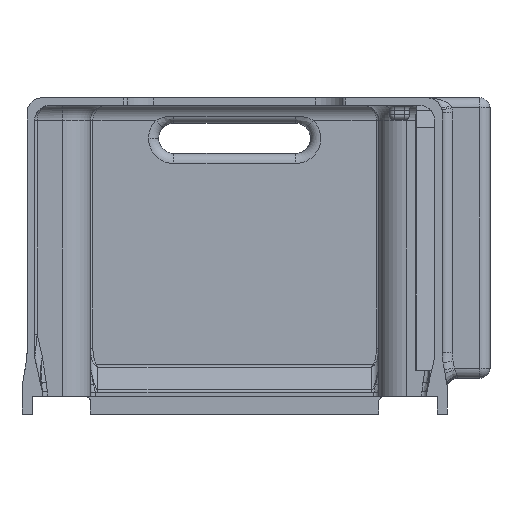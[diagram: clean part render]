
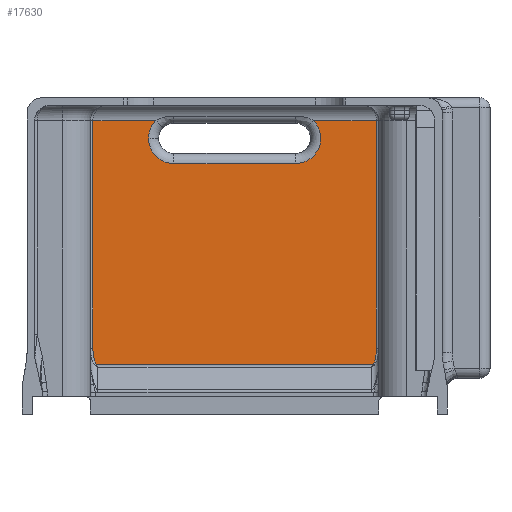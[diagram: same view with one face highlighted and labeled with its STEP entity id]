
A CAD part, front view. The second image highlights one B-rep face of the part: STEP entity #17630.
In plain terms, the highlighted planar face has unit normal (0, -1, 0).
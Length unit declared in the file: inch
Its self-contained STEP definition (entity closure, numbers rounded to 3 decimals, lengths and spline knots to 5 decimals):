
#61 =( BOUNDED_CURVE ( )  B_SPLINE_CURVE ( 3, ( #29071, #12985, #10169, #26568 ),
 .UNSPECIFIED., .F., .T. ) 
 B_SPLINE_CURVE_WITH_KNOTS ( ( 4, 4 ),
 ( 3.43286, 4.71239 ),
 .UNSPECIFIED. ) 
 CURVE ( )  GEOMETRIC_REPRESENTATION_ITEM ( )  RATIONAL_B_SPLINE_CURVE ( ( 1., 0.868, 0.868, 1. ) ) 
 REPRESENTATION_ITEM ( '' )  );
#101 =( BOUNDED_CURVE ( )  B_SPLINE_CURVE ( 3, ( #24010, #188, #26830, #15931 ),
 .UNSPECIFIED., .F., .F. ) 
 B_SPLINE_CURVE_WITH_KNOTS ( ( 4, 4 ),
 ( 1.5708, 2.85033 ),
 .UNSPECIFIED. ) 
 CURVE ( )  GEOMETRIC_REPRESENTATION_ITEM ( )  RATIONAL_B_SPLINE_CURVE ( ( 1., 0.868, 0.868, 1. ) ) 
 REPRESENTATION_ITEM ( '' )  );
#188 = CARTESIAN_POINT ( 'NONE',  ( -1.75, 0.25, 0.49767 ) ) ;
#474 = LINE ( 'NONE', #28310, #13070 ) ;
#726 = EDGE_CURVE ( 'NONE', #4277, #27708, #5654, .T. ) ;
#1096 = FACE_OUTER_BOUND ( 'NONE', #8013, .T. ) ;
#1273 = LINE ( 'NONE', #29840, #17231 ) ;
#1377 = CARTESIAN_POINT ( 'NONE',  ( -1.75, 0.25, 3.40625 ) ) ;
#1528 = EDGE_CURVE ( 'NONE', #9599, #30449, #33791, .T. ) ;
#1754 = VECTOR ( 'NONE', #4916, 39.37008 ) ;
#1920 = DIRECTION ( 'NONE',  ( -1., 0., 0. ) ) ;
#3341 = LINE ( 'NONE', #1377, #17610 ) ;
#3929 = VECTOR ( 'NONE', #20928, 39.37008 ) ;
#4277 = VERTEX_POINT ( 'NONE', #9447 ) ;
#4339 = LINE ( 'NONE', #13065, #3929 ) ;
#4916 = DIRECTION ( 'NONE',  ( 0., 0., -1. ) ) ;
#5055 = AXIS2_PLACEMENT_3D ( 'NONE', #27502, #32809, #17069 ) ;
#5654 = LINE ( 'NONE', #24677, #25342 ) ;
#7402 = ORIENTED_EDGE ( 'NONE', *, *, #14645, .T. ) ;
#7485 = ORIENTED_EDGE ( 'NONE', *, *, #12062, .T. ) ;
#7630 = VERTEX_POINT ( 'NONE', #33792 ) ;
#7863 = ORIENTED_EDGE ( 'NONE', *, *, #1528, .T. ) ;
#8013 = EDGE_LOOP ( 'NONE', ( #7485, #23457, #7863, #7402, #10085, #22636, #31193, #10871, #9438, #20900, #15437 ) ) ;
#8089 = CARTESIAN_POINT ( 'NONE',  ( -1.0625, 0.25, 3.1875 ) ) ;
#8514 = AXIS2_PLACEMENT_3D ( 'NONE', #25362, #9428, #30805 ) ;
#8780 = EDGE_CURVE ( 'NONE', #25888, #9599, #24465, .T. ) ;
#8828 = EDGE_CURVE ( 'NONE', #27708, #19502, #61, .T. ) ;
#9428 = DIRECTION ( 'NONE',  ( 0., 1., 0. ) ) ;
#9438 = ORIENTED_EDGE ( 'NONE', *, *, #14948, .F. ) ;
#9447 = CARTESIAN_POINT ( 'NONE',  ( -1.70545, 0.25, 0.38897 ) ) ;
#9505 = EDGE_CURVE ( 'NONE', #31422, #33009, #27787, .T. ) ;
#9599 = VERTEX_POINT ( 'NONE', #8089 ) ;
#10085 = ORIENTED_EDGE ( 'NONE', *, *, #9505, .T. ) ;
#10152 = CARTESIAN_POINT ( 'NONE',  ( -0.75, 0.25, 3.1875 ) ) ;
#10169 = CARTESIAN_POINT ( 'NONE',  ( 1.75, 0.25, 0.49767 ) ) ;
#10871 = ORIENTED_EDGE ( 'NONE', *, *, #8828, .T. ) ;
#11945 = CARTESIAN_POINT ( 'NONE',  ( -0.75, 0.25, 2.875 ) ) ;
#12062 = EDGE_CURVE ( 'NONE', #7630, #25888, #4339, .T. ) ;
#12985 = CARTESIAN_POINT ( 'NONE',  ( 1.73289, 0.25, 0.41762 ) ) ;
#13065 = CARTESIAN_POINT ( 'NONE',  ( 1.75, 0.25, 2.875 ) ) ;
#13070 = VECTOR ( 'NONE', #25589, 39.37008 ) ;
#13133 = CARTESIAN_POINT ( 'NONE',  ( -1.75, 0.25, 13.00886 ) ) ;
#13972 = AXIS2_PLACEMENT_3D ( 'NONE', #10152, #34342, #1920 ) ;
#14095 = CARTESIAN_POINT ( 'NONE',  ( 1.75, 0.25, 3.40625 ) ) ;
#14645 = EDGE_CURVE ( 'NONE', #30449, #31422, #474, .T. ) ;
#14792 = CARTESIAN_POINT ( 'NONE',  ( 1.70545, 0.25, 0.38897 ) ) ;
#14798 = CARTESIAN_POINT ( 'NONE',  ( 0.97317, 0.25, 3.40625 ) ) ;
#14909 = CARTESIAN_POINT ( 'NONE',  ( -1.75, 0.25, 0.59744 ) ) ;
#14948 = EDGE_CURVE ( 'NONE', #24301, #19502, #1273, .T. ) ;
#15437 = ORIENTED_EDGE ( 'NONE', *, *, #27082, .T. ) ;
#15931 = CARTESIAN_POINT ( 'NONE',  ( -1.70545, 0.25, 0.38897 ) ) ;
#16922 = CARTESIAN_POINT ( 'NONE',  ( 1.75, 0.25, 0.59744 ) ) ;
#17069 = DIRECTION ( 'NONE',  ( -1., 0., 0. ) ) ;
#17231 = VECTOR ( 'NONE', #30057, 39.37008 ) ;
#17610 = VECTOR ( 'NONE', #28249, 39.37008 ) ;
#17630 = ADVANCED_FACE ( 'NONE', ( #1096 ), #30353, .F. ) ;
#18997 = CIRCLE ( 'NONE', #8514, 0.3125 ) ;
#19502 = VERTEX_POINT ( 'NONE', #16922 ) ;
#19912 = AXIS2_PLACEMENT_3D ( 'NONE', #31532, #20392, #23059 ) ;
#20392 = DIRECTION ( 'NONE',  ( 0., 1., 0. ) ) ;
#20900 = ORIENTED_EDGE ( 'NONE', *, *, #28245, .T. ) ;
#20928 = DIRECTION ( 'NONE',  ( -1., 0., 0. ) ) ;
#22636 = ORIENTED_EDGE ( 'NONE', *, *, #32182, .T. ) ;
#23059 = DIRECTION ( 'NONE',  ( -1., 0., 0. ) ) ;
#23457 = ORIENTED_EDGE ( 'NONE', *, *, #8780, .T. ) ;
#24010 = CARTESIAN_POINT ( 'NONE',  ( -1.75, 0.25, 0.59744 ) ) ;
#24301 = VERTEX_POINT ( 'NONE', #14095 ) ;
#24465 = CIRCLE ( 'NONE', #19912, 0.3125 ) ;
#24677 = CARTESIAN_POINT ( 'NONE',  ( 1.75, 0.25, 0.38897 ) ) ;
#25342 = VECTOR ( 'NONE', #30108, 39.37008 ) ;
#25362 = CARTESIAN_POINT ( 'NONE',  ( 0.75, 0.25, 3.1875 ) ) ;
#25589 = DIRECTION ( 'NONE',  ( -1., 0., 0. ) ) ;
#25888 = VERTEX_POINT ( 'NONE', #11945 ) ;
#26568 = CARTESIAN_POINT ( 'NONE',  ( 1.75, 0.25, 0.59744 ) ) ;
#26695 = VERTEX_POINT ( 'NONE', #14798 ) ;
#26830 = CARTESIAN_POINT ( 'NONE',  ( -1.73289, 0.25, 0.41762 ) ) ;
#27082 = EDGE_CURVE ( 'NONE', #26695, #7630, #18997, .T. ) ;
#27502 = CARTESIAN_POINT ( 'NONE',  ( 1.75, 0.25, 13.00886 ) ) ;
#27708 = VERTEX_POINT ( 'NONE', #14792 ) ;
#27787 = LINE ( 'NONE', #13133, #1754 ) ;
#28245 = EDGE_CURVE ( 'NONE', #24301, #26695, #3341, .T. ) ;
#28249 = DIRECTION ( 'NONE',  ( -1., 0., 0. ) ) ;
#28310 = CARTESIAN_POINT ( 'NONE',  ( -1.75, 0.25, 3.40625 ) ) ;
#29071 = CARTESIAN_POINT ( 'NONE',  ( 1.70545, 0.25, 0.38897 ) ) ;
#29352 = CARTESIAN_POINT ( 'NONE',  ( -1.75, 0.25, 3.40625 ) ) ;
#29840 = CARTESIAN_POINT ( 'NONE',  ( 1.75, 0.25, 13.00886 ) ) ;
#30057 = DIRECTION ( 'NONE',  ( 0., 0., -1. ) ) ;
#30108 = DIRECTION ( 'NONE',  ( 1., 0., 0. ) ) ;
#30353 = PLANE ( 'NONE',  #5055 ) ;
#30449 = VERTEX_POINT ( 'NONE', #34535 ) ;
#30805 = DIRECTION ( 'NONE',  ( -1., 0., 0. ) ) ;
#31193 = ORIENTED_EDGE ( 'NONE', *, *, #726, .T. ) ;
#31422 = VERTEX_POINT ( 'NONE', #29352 ) ;
#31532 = CARTESIAN_POINT ( 'NONE',  ( -0.75, 0.25, 3.1875 ) ) ;
#32182 = EDGE_CURVE ( 'NONE', #33009, #4277, #101, .T. ) ;
#32809 = DIRECTION ( 'NONE',  ( 0., 1., 0. ) ) ;
#33009 = VERTEX_POINT ( 'NONE', #14909 ) ;
#33791 = CIRCLE ( 'NONE', #13972, 0.3125 ) ;
#33792 = CARTESIAN_POINT ( 'NONE',  ( 0.75, 0.25, 2.875 ) ) ;
#34342 = DIRECTION ( 'NONE',  ( 0., 1., 0. ) ) ;
#34535 = CARTESIAN_POINT ( 'NONE',  ( -0.97317, 0.25, 3.40625 ) ) ;
